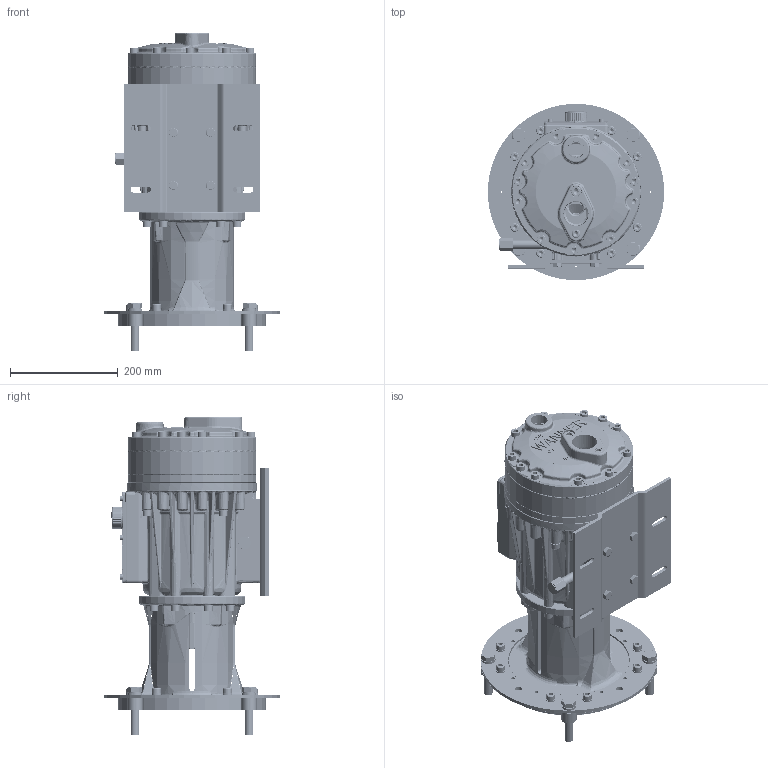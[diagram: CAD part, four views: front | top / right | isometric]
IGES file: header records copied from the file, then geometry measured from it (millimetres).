
Start section: SolidWorks IGES file using analytic representation for surfaces
Global section: file name: Q:\ENG\!!Gary\Outline-Dwgs\Latest-Pump-etc-OD\G25-M-1205.IGS; native system: SolidWorks 2007; preprocessor: SolidWorks 2007; author: garyi; date: 081104.135325; units: inch
Bounding box: 327.66 x 327.66 x 592.18 mm (x, y, z)
Surface area: 1992836.3 mm2 (no closed solid volume)
Topology: 0 solids, 0 shells, 12797 faces, 147420 edges, 147330 vertices
Faces by surface type: revolution 7872, bspline 4925
